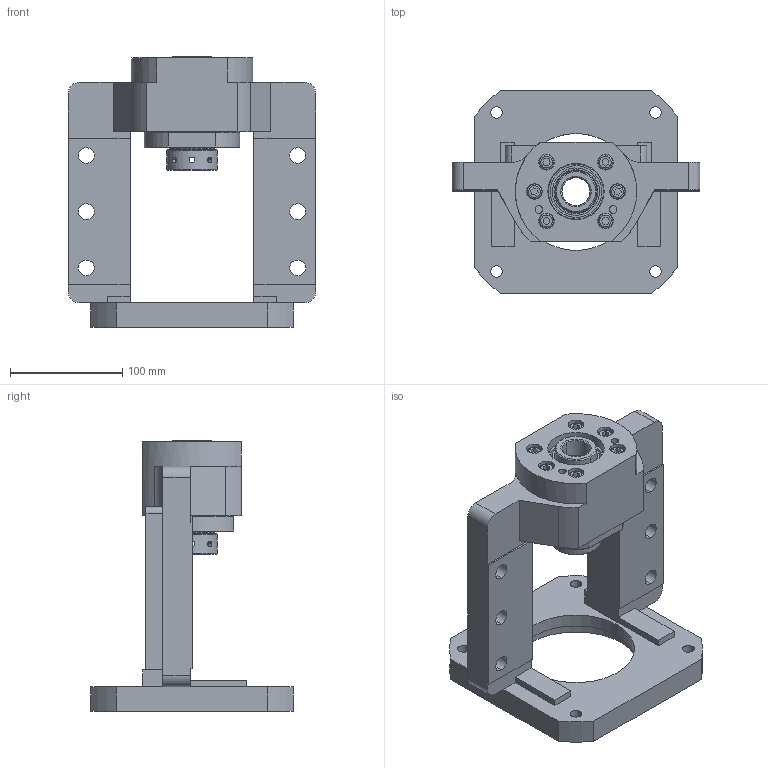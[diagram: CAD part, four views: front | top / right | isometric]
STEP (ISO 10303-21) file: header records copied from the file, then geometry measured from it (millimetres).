
FILE_DESCRIPTION (( 'STEP AP203' ), '1' );
FILE_NAME ('MBCK25L-H²Õ¦X¥ó.STEP', '2025-09-18T02:51:41', ( '' ), ( '' ), 'SwSTEP 2.0', 'SolidWorks 2018', '' );
FILE_SCHEMA (( 'CONFIG_CONTROL_DESIGN' ));
Length unit declared in the file: millimetre
Products named in the file (2): MBCK25L-H組合件
Bounding box: 220 x 180 x 241 mm (x, y, z)
Surface area: 226223.6 mm2 (no closed solid volume)
Topology: 0 solids, 35 shells, 344 faces, 959 edges, 643 vertices
Faces by surface type: cylinder 126, plane 126, cone 60, torus 26, bspline 6
Entity records: 20482 total; most frequent: CARTESIAN_POINT 11512, DIRECTION 1910, ORIENTED_EDGE 1657, EDGE_CURVE 951, AXIS2_PLACEMENT_3D 751, VERTEX_POINT 643, EDGE_LOOP 422, CIRCLE 411
